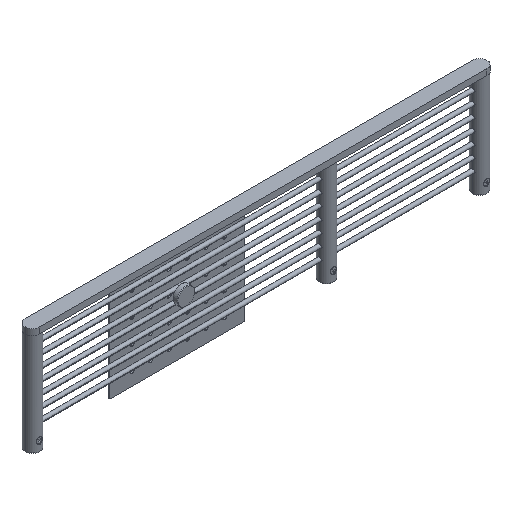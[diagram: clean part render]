
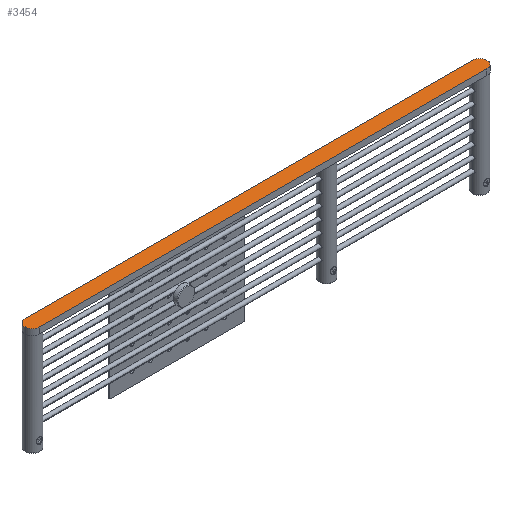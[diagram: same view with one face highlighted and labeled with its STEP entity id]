
A CAD part, isometric view. The second image highlights one B-rep face of the part: STEP entity #3454.
In plain terms, the highlighted planar face has unit normal (0, 0, 1).
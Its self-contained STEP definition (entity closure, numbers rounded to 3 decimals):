
#108 = FACE_OUTER_BOUND ( 'NONE', #8880, .T. ) ;
#319 = CARTESIAN_POINT ( 'NONE',  ( -230., 7.6, 6.2 ) ) ;
#650 = CARTESIAN_POINT ( 'NONE',  ( 230., 7.6, 6.2 ) ) ;
#661 = DIRECTION ( 'NONE',  ( 1., 0., 0. ) ) ;
#1046 = CIRCLE ( 'NONE', #8274, 7.6 ) ;
#1335 = DIRECTION ( 'NONE',  ( 1., 0., 0. ) ) ;
#1905 = DIRECTION ( 'NONE',  ( 1., 0., 0. ) ) ;
#1940 = VECTOR ( 'NONE', #3927, 1000. ) ;
#2348 = CARTESIAN_POINT ( 'NONE',  ( -230., 0., 6.2 ) ) ;
#2413 = EDGE_CURVE ( 'NONE', #4263, #6615, #5252, .T. ) ;
#2900 = DIRECTION ( 'NONE',  ( 0., 0., 1. ) ) ;
#3264 = PLANE ( 'NONE',  #9642 ) ;
#3313 = CARTESIAN_POINT ( 'NONE',  ( -230., -7.6, 6.2 ) ) ;
#3454 = ADVANCED_FACE ( 'NONE', ( #108 ), #3264, .T. ) ;
#3461 = VERTEX_POINT ( 'NONE', #650 ) ;
#3927 = DIRECTION ( 'NONE',  ( -1., 0., 0. ) ) ;
#3959 = AXIS2_PLACEMENT_3D ( 'NONE', #10466, #2900, #8371 ) ;
#4195 = CARTESIAN_POINT ( 'NONE',  ( -230., -7.6, 6.2 ) ) ;
#4263 = VERTEX_POINT ( 'NONE', #4195 ) ;
#4273 = CARTESIAN_POINT ( 'NONE',  ( -230., 0., 6.2 ) ) ;
#4695 = CIRCLE ( 'NONE', #3959, 7.6 ) ;
#4847 = VECTOR ( 'NONE', #661, 1000. ) ;
#4921 = EDGE_CURVE ( 'NONE', #3461, #9389, #4946, .T. ) ;
#4946 = LINE ( 'NONE', #10696, #1940 ) ;
#5252 = LINE ( 'NONE', #3313, #4847 ) ;
#5711 = ORIENTED_EDGE ( 'NONE', *, *, #9480, .T. ) ;
#6273 = ORIENTED_EDGE ( 'NONE', *, *, #6639, .T. ) ;
#6282 = DIRECTION ( 'NONE',  ( 0., 0., 1. ) ) ;
#6323 = CARTESIAN_POINT ( 'NONE',  ( -230., 0., 6.2 ) ) ;
#6615 = VERTEX_POINT ( 'NONE', #8309 ) ;
#6639 = EDGE_CURVE ( 'NONE', #9389, #10371, #1046, .T. ) ;
#7177 = ORIENTED_EDGE ( 'NONE', *, *, #8081, .T. ) ;
#7494 = DIRECTION ( 'NONE',  ( 1., 0., 0. ) ) ;
#7808 = CARTESIAN_POINT ( 'NONE',  ( -237.6, 0., 6.2 ) ) ;
#8081 = EDGE_CURVE ( 'NONE', #6615, #3461, #4695, .T. ) ;
#8274 = AXIS2_PLACEMENT_3D ( 'NONE', #4273, #10316, #1905 ) ;
#8309 = CARTESIAN_POINT ( 'NONE',  ( 230., -7.6, 6.2 ) ) ;
#8371 = DIRECTION ( 'NONE',  ( 1., 0., 0. ) ) ;
#8880 = EDGE_LOOP ( 'NONE', ( #6273, #5711, #10720, #7177, #9037 ) ) ;
#9037 = ORIENTED_EDGE ( 'NONE', *, *, #4921, .T. ) ;
#9389 = VERTEX_POINT ( 'NONE', #319 ) ;
#9480 = EDGE_CURVE ( 'NONE', #10371, #4263, #9603, .T. ) ;
#9603 = CIRCLE ( 'NONE', #10914, 7.6 ) ;
#9642 = AXIS2_PLACEMENT_3D ( 'NONE', #2348, #10836, #7494 ) ;
#10316 = DIRECTION ( 'NONE',  ( 0., 0., 1. ) ) ;
#10371 = VERTEX_POINT ( 'NONE', #7808 ) ;
#10466 = CARTESIAN_POINT ( 'NONE',  ( 230., 0., 6.2 ) ) ;
#10696 = CARTESIAN_POINT ( 'NONE',  ( -230., 7.6, 6.2 ) ) ;
#10720 = ORIENTED_EDGE ( 'NONE', *, *, #2413, .T. ) ;
#10836 = DIRECTION ( 'NONE',  ( 0., 0., 1. ) ) ;
#10914 = AXIS2_PLACEMENT_3D ( 'NONE', #6323, #6282, #1335 ) ;
